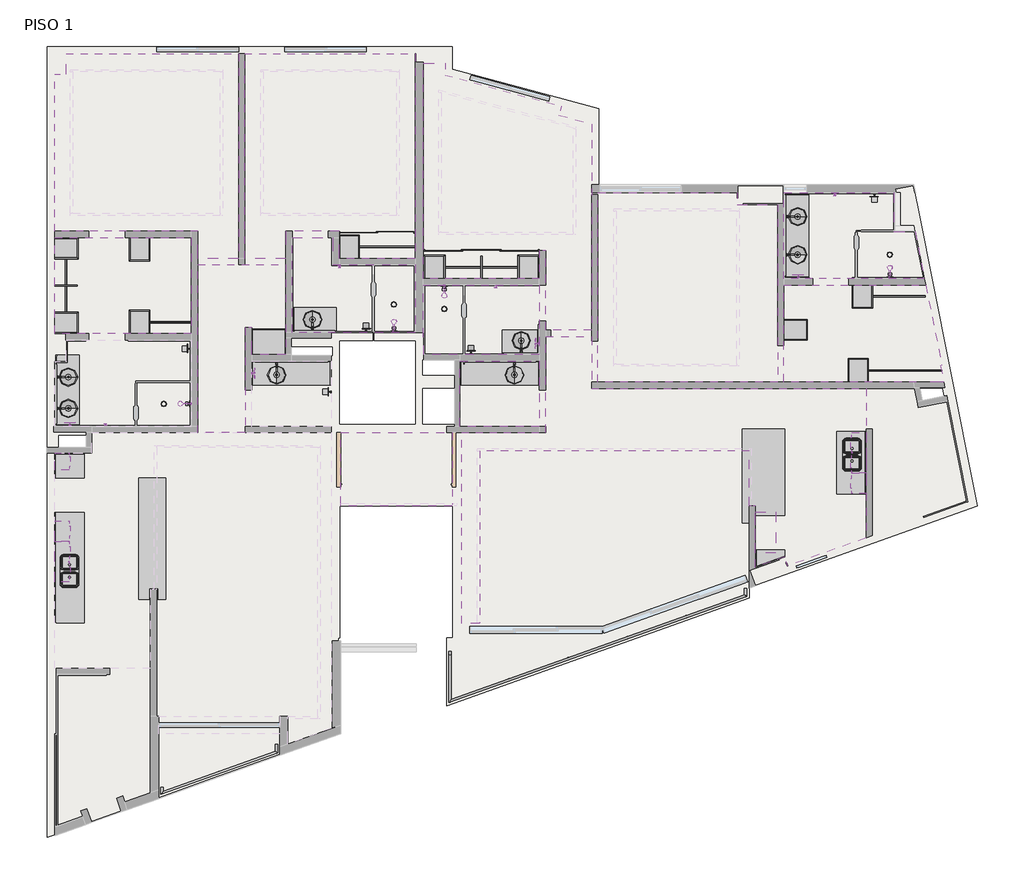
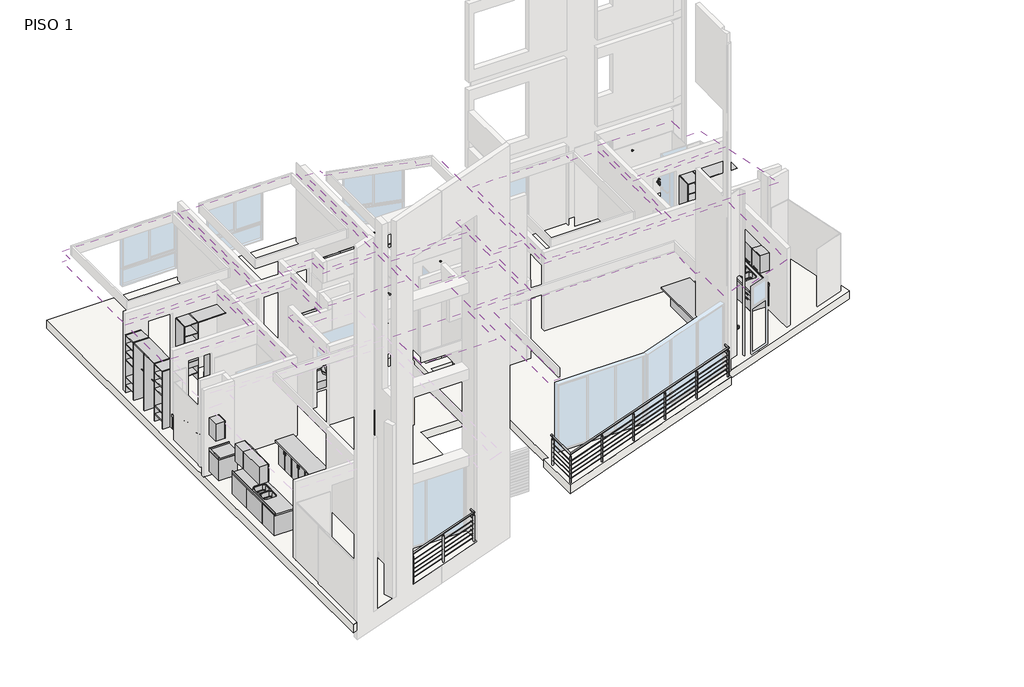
# One storey, part 4 of 4: 43 flow terminals, 37 furniture elements, 13 coverings, 2 railings, 1 proxy, 1 slab.
"""IFC4 building model written with IfcOpenShell, lengths in millimetres."""

from ifc_helpers import new_model, si_unit, frame, origin, place, context, project, spatial, polyline, outline, extrude, faceted_brep, transform, mapped, element, save
from components import specialty_equipment_e95493f8, flow_terminal_a2814962, flow_terminal_5cc0e8a1, flow_terminal_a7820e30, flow_terminal_68213279, flow_terminal_5f1bfaf6, flow_terminal_6c50e432, flow_terminal_979eccb3, flow_terminal_b4af5928, flow_terminal_bcb3a9d6, flow_terminal_02720d88, flow_terminal_974a7598, flow_terminal_63621eee, flow_terminal_70208929, flow_terminal_dbe0ad42, furniture_7ccd6d22, furniture_a8ddcfd3, furniture_af3adfe5, furniture_695d730f, furniture_6c499260, furniture_030b6b42, furniture_772ddd76, furniture_c1e19565, furniture_370_x_600_x_320_mm_8a8752ee, furniture_3900_mm_204c5ad0, furniture_450_x_600_x_320_mm_b980701e, furniture_450_x_600_x_320_mm_602578f4, furniture_550_mm_c334357f, furniture_620_mm_497b6e52, furniture_620_mm_84e951ed, furniture_680_mm_c6045463, furniture_7700_mm_prof_40_e6cee792, furniture_820_mm_546e8a10, furniture_900_mm_f7b05b38, furniture_900_x_600_x_320_mm_ed7ff752, furniture_900_x_600_x_320_mm_dd102760, cl05_4e4fac43, cl2_closet_fc385fcd, cl3_closet_a3c0aced, cl4_a_closet_81bb138c, cl4b_closet_0a5770e6, cl4c_closet_576a11e8, cl6a_closet_3e36db71, cl6b_closet_5e1df598, cl6c_closet_d8154fa9, cubierta4_cubierta_1cff2780, cubierta5_cubierta_24cb3831, railing_ef50bcf6, railing_b0b55876

model = new_model("IFC4")

# Units and contexts
model_context = context("Model", 3, world=origin())
ifc_project = project(units=[si_unit("LENGTHUNIT", "METRE", prefix="MILLI")], contexts=[model_context])

# Site, building, storey
site = spatial("IfcSite", under=ifc_project)
building = spatial("IfcBuilding", under=site)
storey = spatial("IfcBuildingStorey", under=building, Name="PISO 1", Elevation=3000.0)

# Proxy
placement = place(None, origin())
specialty_equipment_shape = specialty_equipment_e95493f8(model_context)
element("IfcBuildingElementProxy", 1, Name="Campana rectangular - muro : Campana rectangular - muro", ObjectType="Campana rectangular - muro : Campana rectangular - muro", at=placement, inside=storey, context=model_context, shape_type="MappedRepresentation", body=[
    mapped(specialty_equipment_shape, transform((49717.8559119, 27525.7129416, 3250.0), x_axis=(0.0, 1.0, 0.0), y_axis=(-1.0, 0.0, 0.0), z_axis=(0.0, 0.0, 1.0))),
])

# Coverings
element("IfcCovering", 2, ObjectType="Plafond Tablaroca", at=placement, inside=storey, context=model_context, shape_type="SweptSolid", body=[
    extrude(outline(polyline([(34143.8589874, 34168.9785701), (34143.8589874, 37625.4026232), (34398.8589874, 37625.4026232), (34398.8589874, 38080.4026232), (38194.5300226, 38080.4026232), (38194.5300226, 33568.9784839), (37294.5300226, 33568.9784839), (37294.5300226, 34168.9785701), (34143.8589874, 34168.9785701)]), holes=[polyline([(34543.8589874, 34568.9785701), (37794.5300226, 34568.9785701), (37794.5300226, 37680.4026232), (34543.8589874, 37680.4026232), (34543.8589874, 34568.9785701)])]), frame((0.0, 0.0, 5350.0), z_axis=(0.0, 0.0, 1.0), x_axis=(1.0, 0.0, 0.0)), (0.0, 0.0, 1.0), 52.7),
])
element("IfcCovering", 3, ObjectType="Plafond Tablaroca", at=placement, inside=storey, context=model_context, shape_type="SweptSolid", body=[
    extrude(outline(polyline([(38334.5300226, 38080.4026232), (42084.5059119, 38080.4026232), (42084.5059119, 33568.9784839), (40409.5059119, 33568.9784839), (40409.5059119, 34168.9785701), (39234.5300226, 34168.9785701), (39234.5300226, 33568.9784839), (38334.5300226, 33568.9784839), (38334.5300226, 38080.4026232)]), holes=[polyline([(38734.5300226, 37680.4026232), (38734.5300226, 34568.9785701), (41684.5059119, 34568.9785701), (41684.5059119, 37680.4026232), (38734.5300226, 37680.4026232)])]), frame((0.0, 0.0, 5350.0), z_axis=(0.0, 0.0, 1.0), x_axis=(1.0, 0.0, 0.0)), (0.0, 0.0, 1.0), 52.7),
])
element("IfcCovering", 4, ObjectType="Plafond Tablaroca", at=placement, inside=storey, context=model_context, shape_type="SweptSolid", body=[
    extrude(outline(polyline([(45253.4028147, 36725.1514674), (45974.5059119, 36531.2471191), (45974.5059119, 35104.0104642), (45974.5059119, 31984.0100923), (44964.5251366, 31984.0100923), (44964.5251366, 33744.0113905), (44824.5251366, 33744.0113905), (44824.5251366, 33124.0113856), (42264.5059119, 33124.0113856), (42264.5059119, 37875.4026232), (42744.5059119, 37875.4026232), (42744.5059119, 37612.0750171), (45306.6362479, 36923.1191455), (45253.4028147, 36725.1514674)]), holes=[polyline([(42664.5059119, 37219.3779563), (42664.5059119, 34144.0113905), (45574.5059119, 34144.0113905), (45574.5059119, 36436.8800645), (42664.5059119, 37219.3779563)])]), frame((0.0, 0.0, 5350.0), z_axis=(0.0, 0.0, 1.0), x_axis=(1.0, 0.0, 0.0)), (0.0, 0.0, 1.0), 52.7),
])
element("IfcCovering", 5, ObjectType="Plafond Tablaroca", at=placement, inside=storey, context=model_context, shape_type="SweptSolid", body=[
    extrude(outline(polyline([(42084.5059119, 31933.9733508), (40329.5059119, 31933.9733508), (39374.5300226, 31933.9733508), (39374.5300226, 34028.9785701), (40269.5059119, 34028.9785701), (40269.5059119, 33428.9784839), (42084.5059119, 33428.9784839), (42084.5059119, 31933.9733508)])), frame((0.0, 0.0, 5350.0), z_axis=(0.0, 0.0, 1.0), x_axis=(1.0, 0.0, 0.0)), (0.0, 0.0, 1.0), 52.7),
])
element("IfcCovering", 6, ObjectType="Plafond Tablaroca", at=placement, inside=storey, context=model_context, shape_type="SweptSolid", body=[
    extrude(outline(polyline([(37154.5300226, 31908.9733508), (34143.8589874, 31908.9733508), (34143.8589874, 34028.9785701), (37154.5300226, 34028.9785701), (37154.5300226, 31908.9733508)])), frame((0.0, 0.0, 5350.0), z_axis=(0.0, 0.0, 1.0), x_axis=(1.0, 0.0, 0.0)), (0.0, 0.0, 1.0), 52.7),
])
element("IfcCovering", 7, ObjectType="Plafond Tablaroca", at=placement, inside=storey, context=model_context, shape_type="SweptSolid", body=[
    extrude(outline(polyline([(39234.5300226, 33428.9784839), (39234.5300226, 31444.0104769), (38484.5059119, 31444.0104769), (38484.5059119, 32044.0104769), (38344.5059119, 32044.0104769), (38344.5059119, 29724.010184), (37294.5300226, 29724.010184), (37294.5300226, 33428.9784839), (39234.5300226, 33428.9784839)])), frame((0.0, 0.0, 5350.0), z_axis=(0.0, 0.0, 1.0), x_axis=(1.0, 0.0, 0.0)), (0.0, 0.0, 1.0), 52.7),
])
element("IfcCovering", 8, ObjectType="Plafond Tablaroca", at=placement, inside=storey, context=model_context, shape_type="SweptSolid", body=[
    extrude(outline(polyline([(43014.5059119, 31444.0104755), (42279.5059119, 31444.0104755), (42279.5059119, 31838.9733508), (42264.5059119, 31838.9733508), (42264.5059119, 32984.0113856), (44824.5251366, 32984.0113856), (44824.5251366, 31444.0104755), (43014.5059119, 31444.0104755)])), frame((0.0, 0.0, 5350.0), z_axis=(0.0, 0.0, 1.0), x_axis=(1.0, 0.0, 0.0)), (0.0, 0.0, 1.0), 52.7),
])
element("IfcCovering", 9, ObjectType="Plafond Tablaroca", at=placement, inside=storey, context=model_context, shape_type="SweptSolid", body=[
    extrude(outline(polyline([(44824.5251366, 31304.0104755), (44824.5251366, 29864.010184), (43074.5059119, 29864.010184), (43074.5059119, 31304.0104755), (44824.5251366, 31304.0104755)])), frame((0.0, 0.0, 5350.0), z_axis=(0.0, 0.0, 1.0), x_axis=(1.0, 0.0, 0.0)), (0.0, 0.0, 1.0), 52.7),
])
element("IfcCovering", 10, ObjectType="Plafond Tablaroca", at=placement, inside=storey, context=model_context, shape_type="SweptSolid", body=[
    extrude(outline(polyline([(46114.5059119, 30844.0100923), (46114.5059119, 35014.0104642), (49179.4822189, 35014.0104642), (49179.4822189, 34759.0104642), (50074.4822189, 34759.0104642), (50074.4822189, 30844.0100923), (46114.5059119, 30844.0100923)]), holes=[polyline([(46514.5059119, 34614.0104642), (46514.5059119, 31244.0100923), (49174.4822189, 31244.0100923), (49174.4822189, 34614.0104642), (46514.5059119, 34614.0104642)])]), frame((0.0, 0.0, 5350.0), z_axis=(0.0, 0.0, 1.0), x_axis=(1.0, 0.0, 0.0)), (0.0, 0.0, 1.0), 52.7),
])
element("IfcCovering", 11, ObjectType="Plafond Tablaroca", at=placement, inside=storey, context=model_context, shape_type="SweptSolid", body=[
    extrude(outline(polyline([(52636.6303003, 35014.0104642), (52636.6303003, 34154.0104642), (53104.1193844, 34154.0104642), (53310.4167001, 33124.0113812), (50214.4822189, 33124.0113812), (50214.4822189, 35014.0104642), (52636.6303003, 35014.0104642)])), frame((0.0, 0.0, 5350.0), z_axis=(0.0, 0.0, 1.0), x_axis=(1.0, 0.0, 0.0)), (0.0, 0.0, 1.0), 52.7),
])
element("IfcCovering", 12, ObjectType="Plafond Tablaroca", at=placement, inside=storey, context=model_context, shape_type="SweptSolid", body=[
    extrude(outline(polyline([(50214.4822189, 32984.0113812), (53338.4571369, 32984.0113812), (53693.0464332, 31213.6216464), (53663.630648, 31207.7299931), (53736.479683, 30844.0100923), (53134.7162741, 30844.0100923), (50214.4822189, 30844.0100923), (50214.4822189, 32984.0113812)])), frame((0.0, 0.0, 5350.0), z_axis=(0.0, 0.0, 1.0), x_axis=(1.0, 0.0, 0.0)), (0.0, 0.0, 1.0), 52.7),
])
element("IfcCovering", 13, ObjectType="Plafond Tablaroca", at=placement, inside=storey, context=model_context, shape_type="Brep", body=[
    faceted_brep([(44964.5251366, 31844.0100923, 5402.7), (44964.5251366, 29724.010184, 5402.7), (43109.5059119, 29724.010184, 5402.7), (43109.5059119, 25525.2541962, 5402.7), (43509.5059119, 25525.2541962, 5402.7), (43509.5059119, 25545.2541962, 5402.7), (43509.5059119, 29324.010184, 5402.7), (49444.5059119, 29324.010184, 5402.7), (49444.5059119, 28111.0432167, 5402.7), (49497.2059119, 28111.0432167, 5402.7), (49584.5059119, 28111.0432167, 5402.7), (49584.5059119, 26757.929668, 5402.7), (50230.4085675, 26988.0993789, 5402.7), (50300.9007209, 26790.2841715, 5402.7), (52024.4822189, 27404.4885747, 5402.7), (52024.4822189, 30704.0100923, 5402.7), (45974.5059119, 30704.0100923, 5402.7), (45974.5059119, 31844.0100923, 5402.7), (44964.5251366, 31844.0100923, 5350.0), (45974.5059119, 31844.0100923, 5350.0), (45974.5059119, 30704.0100923, 5350.0), (52024.4822189, 30704.0100923, 5350.0), (52024.4822189, 27404.4885747, 5350.0), (50300.9007209, 26790.2841715, 5350.0), (50230.4085675, 26988.0993789, 5350.0), (49584.5059119, 26757.929668, 5350.0), (49584.5059119, 28111.0432167, 5350.0), (49444.5059119, 28111.0432167, 5350.0), (49444.5059119, 29324.010184, 5350.0), (43509.5059119, 29324.010184, 5350.0), (43509.5059119, 25525.2541962, 5350.0), (43109.5059119, 25525.2541962, 5350.0), (43109.5059119, 29724.010184, 5350.0), (44964.5251366, 29724.010184, 5350.0)], [[[0, 1, 2, 3, 4, 5, 6, 7, 8, 9, 10, 11, 12, 13, 14, 15, 16, 17]], [[18, 19, 20, 21, 22, 23, 24, 25, 26, 27, 28, 29, 30, 31, 32, 33]], [[1, 0, 18, 33]], [[7, 6, 29, 28]], [[8, 7, 28, 27]], [[10, 9, 8, 27, 26]], [[11, 10, 26, 25]], [[12, 11, 25, 24]], [[13, 12, 24, 23]], [[14, 13, 23, 22]], [[15, 14, 22, 21]], [[16, 15, 21, 20]], [[17, 16, 20, 19]], [[0, 17, 19, 18]], [[2, 1, 33, 32]], [[3, 2, 32, 31]], [[4, 3, 31, 30]], [[6, 5, 4, 30, 29]]]),
])
element("IfcCovering", 14, ObjectType="Plafond Tablaroca", at=placement, inside=storey, context=model_context, shape_type="Brep", body=[
    faceted_brep([(40444.5059119, 28111.0432167, 5402.7), (42899.5059119, 28111.0432167, 5402.7), (42899.5059119, 28163.7432167, 5402.7), (42899.5059119, 29724.010184, 5402.7), (40444.5059119, 29724.010184, 5402.7), (40444.5059119, 28163.7432167, 5402.7), (40444.5059119, 28111.0432167, 5350.0), (40444.5059119, 29724.010184, 5350.0), (42899.5059119, 29724.010184, 5350.0), (42899.5059119, 28111.0432167, 5350.0), (42899.5059119, 28111.0432167, 5400.0)], [[[0, 1, 2, 3, 4, 5]], [[6, 7, 8, 9]], [[1, 0, 6, 9, 10]], [[3, 2, 1, 10, 9, 8]], [[4, 3, 8, 7]], [[0, 5, 4, 7, 6]]]),
])

# Flow terminals
flow_terminal_shape = flow_terminal_a2814962(model_context)
element("IfcFlowTerminal", 15, ObjectType="Ovalin sobreponer maia - vitromex : Accesorios_baño", at=placement, inside=storey, context=model_context, shape_type="MappedRepresentation", body=[
    mapped(flow_terminal_shape, transform((34443.8589874, 30260.983502, 3000.0), x_axis=(1.0, 0.0, 0.0), y_axis=(0.0, 1.0, 0.0), z_axis=(0.0, 0.0, 1.0))),
])
element("IfcFlowTerminal", 16, ObjectType="Ovalin sobreponer maia - vitromex : Accesorios_baño", at=placement, inside=storey, context=model_context, shape_type="MappedRepresentation", body=[
    mapped(flow_terminal_shape, transform((39824.5300226, 32218.9733508, 3000.0), x_axis=(0.0, 1.0, 0.0), y_axis=(-1.0, 0.0, 0.0), z_axis=(0.0, 0.0, 1.0))),
])
element("IfcFlowTerminal", 17, ObjectType="Ovalin sobreponer maia - vitromex : Accesorios_baño", at=placement, inside=storey, context=model_context, shape_type="MappedRepresentation", body=[
    mapped(flow_terminal_shape, transform((44424.5034689, 31754.0104755, 3000.0), x_axis=(0.0, 1.0, 0.0), y_axis=(-1.0, 0.0, 0.0), z_axis=(0.0, 0.0, 1.0))),
])
element("IfcFlowTerminal", 18, ObjectType="Ovalin sobreponer maia - vitromex : Accesorios_baño", at=placement, inside=storey, context=model_context, shape_type="MappedRepresentation", body=[
    mapped(flow_terminal_shape, transform((44274.5251366, 31001.9733508, 3000.0), x_axis=(0.0, -1.0, 0.0), y_axis=(1.0, 0.0, 0.0), z_axis=(0.0, 0.0, 1.0))),
])
element("IfcFlowTerminal", 19, ObjectType="Ovalin sobreponer maia - vitromex : Accesorios_baño", at=placement, inside=storey, context=model_context, shape_type="MappedRepresentation", body=[
    mapped(flow_terminal_shape, transform((50514.4822189, 33648.5026573, 3000.0), x_axis=(1.0, 0.0, 0.0), y_axis=(0.0, 1.0, 0.0), z_axis=(0.0, 0.0, 1.0))),
])
flow_terminal_2_shape = flow_terminal_5cc0e8a1(model_context)
element("IfcFlowTerminal", 20, ObjectType="monomando lavabo - tubo : monomando lavabo - tubo", at=placement, inside=storey, context=model_context, shape_type="MappedRepresentation", body=[
    mapped(flow_terminal_2_shape, transform((34203.8589874, 30260.983502, 3000.0), x_axis=(0.0, 1.0, 0.0), y_axis=(-1.0, 0.0, 0.0), z_axis=(0.0, 0.0, 1.0))),
])
element("IfcFlowTerminal", 21, ObjectType="monomando lavabo - tubo : monomando lavabo - tubo", at=placement, inside=storey, context=model_context, shape_type="MappedRepresentation", body=[
    mapped(flow_terminal_2_shape, transform((39824.5300226, 31978.9733508, 3000.0), x_axis=(-1.0, 0.0, 0.0), y_axis=(0.0, -1.0, 0.0), z_axis=(0.0, 0.0, 1.0))),
])
element("IfcFlowTerminal", 22, ObjectType="monomando lavabo - tubo : monomando lavabo - tubo", at=placement, inside=storey, context=model_context, shape_type="MappedRepresentation", body=[
    mapped(flow_terminal_2_shape, transform((44424.5034689, 31514.0104755, 3000.0), x_axis=(-1.0, 0.0, 0.0), y_axis=(0.0, -1.0, 0.0), z_axis=(0.0, 0.0, 1.0))),
])
element("IfcFlowTerminal", 23, ObjectType="monomando lavabo - tubo : monomando lavabo - tubo", at=placement, inside=storey, context=model_context, shape_type="MappedRepresentation", body=[
    mapped(flow_terminal_2_shape, transform((44274.5251366, 31241.9733508, 3000.0), x_axis=(1.0, 0.0, 0.0), y_axis=(0.0, 1.0, 0.0), z_axis=(0.0, 0.0, 1.0))),
])
element("IfcFlowTerminal", 24, ObjectType="monomando lavabo - tubo : monomando lavabo - tubo", at=placement, inside=storey, context=model_context, shape_type="MappedRepresentation", body=[
    mapped(flow_terminal_2_shape, transform((50274.4822189, 33648.5026573, 3000.0), x_axis=(0.0, 1.0, 0.0), y_axis=(-1.0, 0.0, 0.0), z_axis=(0.0, 0.0, 1.0))),
])
flow_terminal_3_shape = flow_terminal_a7820e30(model_context)
element("IfcFlowTerminal", 25, ObjectType="monomando lavabo - tubo : monomando lavabo - tubo", at=placement, inside=storey, context=model_context, shape_type="MappedRepresentation", body=[
    mapped(flow_terminal_3_shape, transform((34203.8589874, 30952.0000328, 3000.0), x_axis=(0.0, -1.0, 0.0), y_axis=(1.0, 0.0, 0.0), z_axis=(0.0, 0.0, 1.0))),
])
element("IfcFlowTerminal", 26, ObjectType="monomando lavabo - tubo : monomando lavabo - tubo", at=placement, inside=storey, context=model_context, shape_type="MappedRepresentation", body=[
    mapped(flow_terminal_3_shape, transform((39034.5059119, 31241.9733508, 3000.0), x_axis=(-1.0, 0.0, 0.0), y_axis=(0.0, -1.0, 0.0), z_axis=(0.0, 0.0, 1.0))),
])
element("IfcFlowTerminal", 27, ObjectType="monomando lavabo - tubo : monomando lavabo - tubo", at=placement, inside=storey, context=model_context, shape_type="MappedRepresentation", body=[
    mapped(flow_terminal_3_shape, transform((50274.4822189, 34489.5191881, 3000.0), x_axis=(0.0, -1.0, 0.0), y_axis=(1.0, 0.0, 0.0), z_axis=(0.0, 0.0, 1.0))),
])
flow_terminal_4_shape = flow_terminal_68213279(model_context)
element("IfcFlowTerminal", 28, ObjectType="Ovalin sobreponer maia - vitromex : Accesorios_baño", at=placement, inside=storey, context=model_context, shape_type="MappedRepresentation", body=[
    mapped(flow_terminal_4_shape, transform((34443.8589874, 30952.0000328, 3000.0), x_axis=(1.0, 0.0, 0.0), y_axis=(0.0, 1.0, 0.0), z_axis=(0.0, 0.0, 1.0))),
])
element("IfcFlowTerminal", 29, ObjectType="Ovalin sobreponer maia - vitromex : Accesorios_baño", at=placement, inside=storey, context=model_context, shape_type="MappedRepresentation", body=[
    mapped(flow_terminal_4_shape, transform((39034.5059119, 31001.9733508, 3000.0), x_axis=(0.0, -1.0, 0.0), y_axis=(1.0, 0.0, 0.0), z_axis=(0.0, 0.0, 1.0))),
])
element("IfcFlowTerminal", 30, ObjectType="Ovalin sobreponer maia - vitromex : Accesorios_baño", at=placement, inside=storey, context=model_context, shape_type="MappedRepresentation", body=[
    mapped(flow_terminal_4_shape, transform((50514.4822189, 34489.5191881, 3000.0), x_axis=(1.0, 0.0, 0.0), y_axis=(0.0, 1.0, 0.0), z_axis=(0.0, 0.0, 1.0))),
])
flow_terminal_5_shape = flow_terminal_5f1bfaf6(model_context)
element("IfcFlowTerminal", 31, ObjectType="Regadera : Accesorios_baño", at=placement, inside=storey, context=model_context, shape_type="MappedRepresentation", body=[
    mapped(flow_terminal_5_shape, transform((37224.5300226, 30239.010184, 3151.7905899), x_axis=(0.0, 1.0, 0.0), y_axis=(-1.0, 0.0, 0.0), z_axis=(0.0, 0.0, 1.0))),
])
flow_terminal_6_shape = flow_terminal_6c50e432(model_context)
element("IfcFlowTerminal", 32, ObjectType="Portarrollo Dica 1017 : Portarrollos Dica 1017", at=placement, inside=storey, context=model_context, shape_type="MappedRepresentation", body=[
    mapped(flow_terminal_6_shape, transform((37144.5300226, 31453.9733508, 3502.2787162), x_axis=(0.0, 1.0, 0.0), y_axis=(-1.0, 0.0, 0.0), z_axis=(0.0, 0.0, 1.0))),
])
element("IfcFlowTerminal", 33, ObjectType="Portarrollo Dica 1017 : Portarrollos Dica 1017", at=placement, inside=storey, context=model_context, shape_type="MappedRepresentation", body=[
    mapped(flow_terminal_6_shape, transform((40879.5059119, 31943.9733508, 3502.2787162), x_axis=(1.0, 0.0, 0.0), y_axis=(0.0, 1.0, 0.0), z_axis=(0.0, 0.0, 1.0))),
])
element("IfcFlowTerminal", 34, ObjectType="Portarrollo Dica 1017 : Portarrollos Dica 1017", at=placement, inside=storey, context=model_context, shape_type="MappedRepresentation", body=[
    mapped(flow_terminal_6_shape, transform((52331.6303003, 35004.0104642, 3502.2787162), x_axis=(-1.0, 0.0, 0.0), y_axis=(0.0, -1.0, 0.0), z_axis=(0.0, 0.0, 1.0))),
])
element("IfcFlowTerminal", 35, ObjectType="Portarrollo Dica 1017 : Portarrollos Dica 1017", at=placement, inside=storey, context=model_context, shape_type="MappedRepresentation", body=[
    mapped(flow_terminal_6_shape, transform((43189.5060721, 31454.0104754, 3502.2787162), x_axis=(1.0, 0.0, 0.0), y_axis=(0.0, 1.0, 0.0), z_axis=(0.0, 0.0, 1.0))),
])
flow_terminal_7_shape = flow_terminal_979eccb3(model_context)
element("IfcFlowTerminal", 36, ObjectType="Monomando Dica 4473.9 : Accesorios_baño", at=placement, inside=storey, context=model_context, shape_type="MappedRepresentation", body=[
    mapped(flow_terminal_7_shape, transform((37144.5300226, 30236.4917674, 3000.0), x_axis=(0.0, 1.0, 0.0), y_axis=(-1.0, 0.0, 0.0), z_axis=(0.0, 0.0, 1.0))),
])
element("IfcFlowTerminal", 37, ObjectType="Monomando Dica 4473.9 : Accesorios_baño", at=placement, inside=storey, context=model_context, shape_type="MappedRepresentation", body=[
    mapped(flow_terminal_7_shape, transform((41494.5059119, 31943.9733508, 3000.0), x_axis=(1.0, 0.0, 0.0), y_axis=(0.0, 1.0, 0.0), z_axis=(0.0, 0.0, 1.0))),
])
element("IfcFlowTerminal", 38, ObjectType="Monomando Dica 4473.9 : Accesorios_baño", at=placement, inside=storey, context=model_context, shape_type="MappedRepresentation", body=[
    mapped(flow_terminal_7_shape, transform((52424.6388453, 33134.0113812, 3000.0), x_axis=(1.0, 0.0, 0.0), y_axis=(0.0, 1.0, 0.0), z_axis=(0.0, 0.0, 1.0))),
])
element("IfcFlowTerminal", 39, ObjectType="Monomando Dica 4473.9 : Accesorios_baño", at=placement, inside=storey, context=model_context, shape_type="MappedRepresentation", body=[
    mapped(flow_terminal_7_shape, transform((42854.255992, 32973.9839575, 3000.0), x_axis=(-1.0, 0.0, 0.0), y_axis=(0.0, -1.0, 0.0), z_axis=(0.0, 0.0, 1.0))),
])
flow_terminal_8_shape = flow_terminal_b4af5928(model_context)
element("IfcFlowTerminal", 40, ObjectType="Coladera : COLADERA PARA REGADERA", at=placement, inside=storey, context=model_context, shape_type="MappedRepresentation", body=[
    mapped(flow_terminal_8_shape, transform((36547.4660471, 30361.4917674, 3000.0), x_axis=(1.0, 0.0, 0.0), y_axis=(0.0, 1.0, 0.0), z_axis=(0.0, 0.0, 1.0))),
])
element("IfcFlowTerminal", 41, ObjectType="Coladera : COLADERA PARA REGADERA", at=placement, inside=storey, context=model_context, shape_type="MappedRepresentation", body=[
    mapped(flow_terminal_8_shape, transform((41617.2559119, 32553.9733508, 3000.0), x_axis=(1.0, 0.0, 0.0), y_axis=(0.0, 1.0, 0.0), z_axis=(0.0, 0.0, 1.0))),
])
element("IfcFlowTerminal", 42, ObjectType="Coladera : COLADERA PARA REGADERA", at=placement, inside=storey, context=model_context, shape_type="MappedRepresentation", body=[
    mapped(flow_terminal_8_shape, transform((52546.6303003, 33649.0109227, 3000.0), x_axis=(1.0, 0.0, 0.0), y_axis=(0.0, 1.0, 0.0), z_axis=(0.0, 0.0, 1.0))),
])
element("IfcFlowTerminal", 43, ObjectType="Coladera : COLADERA PARA REGADERA", at=placement, inside=storey, context=model_context, shape_type="MappedRepresentation", body=[
    mapped(flow_terminal_8_shape, transform((42729.255992, 32454.0113856, 3000.0), x_axis=(1.0, 0.0, 0.0), y_axis=(0.0, 1.0, 0.0), z_axis=(0.0, 0.0, 1.0))),
])
flow_terminal_9_shape = flow_terminal_bcb3a9d6(model_context)
element("IfcFlowTerminal", 44, ObjectType="Toallero gancho Dica 1006 : Toallero gancho Dica 1006", at=placement, inside=storey, context=model_context, shape_type="MappedRepresentation", body=[
    mapped(flow_terminal_9_shape, transform((35138.8589874, 29874.010184, 4795.0), x_axis=(1.0, 0.0, 0.0), y_axis=(0.0, 1.0, 0.0), z_axis=(0.0, 0.0, 1.0))),
])
element("IfcFlowTerminal", 45, ObjectType="Toallero gancho Dica 1006 : Toallero gancho Dica 1006", at=placement, inside=storey, context=model_context, shape_type="MappedRepresentation", body=[
    mapped(flow_terminal_9_shape, transform((40544.5059119, 33418.9784839, 4425.0), x_axis=(-1.0, 0.0, 0.0), y_axis=(0.0, -1.0, 0.0), z_axis=(0.0, 0.0, 1.0))),
])
element("IfcFlowTerminal", 46, ObjectType="Toallero gancho Dica 1006 : Toallero gancho Dica 1006", at=placement, inside=storey, context=model_context, shape_type="MappedRepresentation", body=[
    mapped(flow_terminal_9_shape, transform((51459.4822189, 35004.0104642, 4795.0), x_axis=(-1.0, 0.0, 0.0), y_axis=(0.0, -1.0, 0.0), z_axis=(0.0, 0.0, 1.0))),
])
element("IfcFlowTerminal", 47, ObjectType="Toallero gancho Dica 1006 : Toallero gancho Dica 1006", at=placement, inside=storey, context=model_context, shape_type="MappedRepresentation", body=[
    mapped(flow_terminal_9_shape, transform((43989.5060721, 32973.9839575, 4795.0), x_axis=(-1.0, 0.0, 0.0), y_axis=(0.0, -1.0, 0.0), z_axis=(0.0, 0.0, 1.0))),
])
flow_terminal_10_shape = flow_terminal_02720d88(model_context)
element("IfcFlowTerminal", 48, ObjectType="Toallero Dica 1009 : Toallero Dica manos 1009", at=placement, inside=storey, context=model_context, shape_type="MappedRepresentation", body=[
    mapped(flow_terminal_10_shape, transform((34348.8589874, 29874.010184, 4548.657459), x_axis=(1.0, 0.0, 0.0), y_axis=(0.0, 1.0, 0.0), z_axis=(0.0, 0.0, 1.0))),
])
element("IfcFlowTerminal", 49, ObjectType="Toallero Dica 1009 : Toallero Dica manos 1009", at=placement, inside=storey, context=model_context, shape_type="MappedRepresentation", body=[
    mapped(flow_terminal_10_shape, transform((50404.4822189, 33134.0113812, 4548.657459), x_axis=(1.0, 0.0, 0.0), y_axis=(0.0, 1.0, 0.0), z_axis=(0.0, 0.0, 1.0))),
])
element("IfcFlowTerminal", 50, ObjectType="Toallero Dica 1009 : Toallero Dica manos 1009", at=placement, inside=storey, context=model_context, shape_type="MappedRepresentation", body=[
    mapped(flow_terminal_10_shape, transform((44814.5251366, 31569.0104754, 4548.657459), x_axis=(0.0, 1.0, 0.0), y_axis=(-1.0, 0.0, 0.0), z_axis=(0.0, 0.0, 1.0))),
])
flow_terminal_11_shape = flow_terminal_974a7598(model_context)
element("IfcFlowTerminal", 51, ObjectType="Toallero Dica 1009 : Toallero Dica manos 1009", at=placement, inside=storey, context=model_context, shape_type="MappedRepresentation", body=[
    mapped(flow_terminal_11_shape, transform((38414.5059119, 31159.0104769, 4548.657459), x_axis=(0.0, -1.0, 0.0), y_axis=(1.0, 0.0, 0.0), z_axis=(0.0, 0.0, 1.0))),
])
element("IfcFlowTerminal", 52, ObjectType="Portarrollo Dica 1017 : Portarrollos Dica 1017", at=placement, inside=storey, context=model_context, shape_type="MappedRepresentation", body=[
    mapped(flow_terminal_6_shape, transform((40244.5059119, 30499.0104769, 3502.2787162), x_axis=(0.0, 1.0, 0.0), y_axis=(-1.0, 0.0, 0.0), z_axis=(0.0, 0.0, 1.0))),
])
flow_terminal_12_shape = flow_terminal_63621eee(model_context)
element("IfcFlowTerminal", 53, ObjectType="Regadera : Accesorios_baño", at=placement, inside=storey, context=model_context, shape_type="MappedRepresentation", body=[
    mapped(flow_terminal_12_shape, transform((41744.5059119, 31923.9733508, 3151.7905899), x_axis=(-1.0, 0.0, 0.0), y_axis=(0.0, -1.0, 0.0), z_axis=(0.0, 0.0, 1.0))),
])
flow_terminal_13_shape = flow_terminal_70208929(model_context)
element("IfcFlowTerminal", 54, ObjectType="Regadera : Accesorios_baño", at=placement, inside=storey, context=model_context, shape_type="MappedRepresentation", body=[
    mapped(flow_terminal_13_shape, transform((52674.6388453, 33054.0113812, 3151.7905899), x_axis=(-1.0, 0.0, 0.0), y_axis=(0.0, -1.0, 0.0), z_axis=(0.0, 0.0, 1.0))),
])
element("IfcFlowTerminal", 55, ObjectType="Regadera : Accesorios_baño", at=placement, inside=storey, context=model_context, shape_type="MappedRepresentation", body=[
    mapped(flow_terminal_13_shape, transform((42604.255992, 33054.0113856, 3151.7905899), x_axis=(1.0, 0.0, 0.0), y_axis=(0.0, 1.0, 0.0), z_axis=(0.0, 0.0, 1.0))),
])
flow_terminal_14_shape = flow_terminal_dbe0ad42(model_context)
element("IfcFlowTerminal", 56, ObjectType="Tarja Teka subm BE 780 : TARJA PARA COCINA", at=placement, inside=storey, context=model_context, shape_type="MappedRepresentation", body=[
    mapped(flow_terminal_14_shape, transform((51691.6368177, 29295.5424593, 2962.9), x_axis=(0.0, -1.0, 0.0), y_axis=(1.0, 0.0, 0.0), z_axis=(0.0, 0.0, 1.0))),
])
element("IfcFlowTerminal", 57, ObjectType="Tarja Teka subm BE 780 : TARJA PARA COCINA", at=placement, inside=storey, context=model_context, shape_type="MappedRepresentation", body=[
    mapped(flow_terminal_14_shape, transform((34489.2043886, 26620.3209435, 2962.9), x_axis=(0.0, 1.0000000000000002, 0.0), y_axis=(-1.0000000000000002, 0.0, 0.0), z_axis=(0.0, 0.0, 1.0))),
])

# Furniture
furniture_shape = furniture_7ccd6d22(model_context)
element("IfcFurniture", 58, ObjectType="ajuste mueble - esquinas7 : ajuste mueble - esquinas", at=placement, inside=storey, context=model_context, shape_type="MappedRepresentation", body=[
    mapped(furniture_shape, transform((81275.8064612, -6969.2760266, 0.0), x_axis=(0.0, 1.0, 0.0), y_axis=(-1.0, 0.0, 0.0), z_axis=(0.0, 0.0, 1.0))),
])
furniture_2_shape = furniture_a8ddcfd3(model_context)
element("IfcFurniture", 59, ObjectType="Puerta Closet corre 3 hojas : Puerta corrdiza 3 hojas PCL-02", at=placement, inside=storey, context=model_context, shape_type="MappedRepresentation", body=[
    mapped(furniture_2_shape, transform((43554.5251366, 33644.0113856, 3000.0), x_axis=(1.0, 0.0, 0.0), y_axis=(0.0, 1.0, 0.0), z_axis=(0.0, 0.0, 1.0))),
])
furniture_3_shape = furniture_af3adfe5(model_context)
element("IfcFurniture", 60, ObjectType="Puerta Closet corre 2 hojas : Puerta corrdiza 2 hojas", at=placement, inside=storey, context=model_context, shape_type="MappedRepresentation", body=[
    mapped(furniture_3_shape, transform((41784.5059119, 34048.9785701, 3000.0), x_axis=(1.0, 0.0, 0.0), y_axis=(0.0, 1.0, 0.0), z_axis=(0.0, 0.0, 1.0))),
])
furniture_4_shape = furniture_695d730f(model_context)
element("IfcFurniture", 61, ObjectType="Mueble colgado 1 cajon - lavabo sobreponer : MB4-mueble baño colgado-1 cajon 80 cm", at=placement, inside=storey, context=model_context, shape_type="MappedRepresentation", body=[
    mapped(furniture_4_shape, transform((44279.5251366, 31454.0104754, 3000.0), x_axis=(1.0, 0.0, 0.0), y_axis=(0.0, 1.0, 0.0), z_axis=(0.0, 0.0, 1.0))),
])
furniture_5_shape = furniture_6c499260(model_context)
element("IfcFurniture", 62, ObjectType="Mueble colgado 1 cajon - lavabo sobreponer : MB1-mueble baño colgado-1 cajon - 90cm", at=placement, inside=storey, context=model_context, shape_type="MappedRepresentation", body=[
    mapped(furniture_5_shape, transform((39744.5300226, 31943.9733508, 3000.0), x_axis=(1.0, 0.0, 0.0), y_axis=(0.0, 1.0, 0.0), z_axis=(0.0, 0.0, 1.0))),
])
furniture_6_shape = furniture_030b6b42(model_context)
element("IfcFurniture", 63, ObjectType="Mueble colgado 2 cajones al lado - lavabo sobreponer : MB2-mueble baño colgado-2 cajones al lado 150", at=placement, inside=storey, context=model_context, shape_type="MappedRepresentation", body=[
    mapped(furniture_6_shape, transform((34153.8589874, 30784.010184, 3000.0), x_axis=(0.0, -1.0, 0.0), y_axis=(1.0, 0.0, 0.0), z_axis=(0.0, 0.0, 1.0))),
])
furniture_7_shape = furniture_772ddd76(model_context)
element("IfcFurniture", 64, ObjectType="Mueble colgado 2 cajones al lado - lavabo sobreponer : MB3-mueble baño colgado-2 cajones al lado 185", at=placement, inside=storey, context=model_context, shape_type="MappedRepresentation", body=[
    mapped(furniture_7_shape, transform((50224.4822189, 34194.0104642, 3000.0), x_axis=(0.0, -1.0, 0.0), y_axis=(1.0, 0.0, 0.0), z_axis=(0.0, 0.0, 1.0))),
])
furniture_8_shape = furniture_c1e19565(model_context)
element("IfcFurniture", 65, ObjectType="Mueble con faldon sin cajones - lavabo sobreponer : MB8-mueble baño colgado- 1.75cm", at=placement, inside=storey, context=model_context, shape_type="MappedRepresentation", body=[
    mapped(furniture_8_shape, transform((39484.5059119, 31374.0104769, 3000.0), x_axis=(-1.0, 0.0, 0.0), y_axis=(0.0, -1.0, 0.0), z_axis=(0.0, 0.0, 1.0))),
])
element("IfcFurniture", 66, ObjectType="Mueble con faldon sin cajones - lavabo sobreponer : MB8-mueble baño colgado- 1.75cm", at=placement, inside=storey, context=model_context, shape_type="MappedRepresentation", body=[
    mapped(furniture_8_shape, transform((44074.5251366, 31374.0104755, 3000.0), x_axis=(-1.0, 0.0, 0.0), y_axis=(0.0, -1.0, 0.0), z_axis=(0.0, 0.0, 1.0))),
])
furniture_370_x_600_x_320_mm_shape = furniture_370_x_600_x_320_mm_8a8752ee(model_context)
element("IfcFurniture", 67, ObjectType="Armario superior - Puerta simple : 370 x 600 x 320 mm", at=placement, inside=storey, context=model_context, shape_type="MappedRepresentation", body=[
    mapped(furniture_370_x_600_x_320_mm_shape, transform((34053.8589874, 28914.010184, 3000.0), x_axis=(0.0, 1.0, 0.0), y_axis=(-1.0, 0.0, 0.0), z_axis=(0.0, 0.0, 1.0))),
])
furniture_3900_mm_shape = furniture_3900_mm_204c5ad0(model_context)
element("IfcFurniture", 68, ObjectType="Armario 3 cajones : 3900 mm", at=placement, inside=storey, context=model_context, shape_type="MappedRepresentation", body=[
    mapped(furniture_3900_mm_shape, transform((52024.4822189, 28613.0909236, 3000.0), x_axis=(0.0, -1.0, 0.0), y_axis=(1.0, 0.0, 0.0), z_axis=(0.0, 0.0, 1.0))),
])
furniture_450_x_600_x_320_mm_shape = furniture_450_x_600_x_320_mm_b980701e(model_context)
element("IfcFurniture", 69, ObjectType="Armario superior - Puerta simple : 450 x 600 x 320 mm", at=placement, inside=storey, context=model_context, shape_type="MappedRepresentation", body=[
    mapped(furniture_450_x_600_x_320_mm_shape, transform((52094.4822189, 28434.010184, 3000.0), x_axis=(0.0, 1.0, 0.0), y_axis=(-1.0, 0.0, 0.0), z_axis=(0.0, 0.0, 1.0))),
])
furniture_450_x_600_x_320_mm_2_shape = furniture_450_x_600_x_320_mm_602578f4(model_context)
element("IfcFurniture", 70, ObjectType="Armario superior - Puerta simple : 450 x 600 x 320 mm", at=placement, inside=storey, context=model_context, shape_type="MappedRepresentation", body=[
    mapped(furniture_450_x_600_x_320_mm_2_shape, transform((34053.8589874, 27732.4819737, 3000.0), x_axis=(0.0, -1.0, 0.0), y_axis=(1.0, 0.0, 0.0), z_axis=(0.0, 0.0, 1.0))),
])
furniture_550_mm_shape = furniture_550_mm_c334357f(model_context)
element("IfcFurniture", 71, ObjectType="Armario-Una puerta : 550 mm", at=placement, inside=storey, context=model_context, shape_type="MappedRepresentation", body=[
    mapped(furniture_550_mm_shape, transform((34143.8589874, 29017.7478889, 3000.0), x_axis=(0.0, -1.0, 0.0), y_axis=(1.0, 0.0, 0.0), z_axis=(0.0, 0.0, 1.0))),
])
furniture_620_mm_shape = furniture_620_mm_497b6e52(model_context)
element("IfcFurniture", 72, ObjectType="Armario-Una puerta : 620 mm", at=placement, inside=storey, context=model_context, shape_type="MappedRepresentation", body=[
    mapped(furniture_620_mm_shape, transform((49604.5059119, 28205.2724791, 3000.0), x_axis=(0.0, 1.0, 0.0), y_axis=(-1.0, 0.0, 0.0), z_axis=(0.0, 0.0, 1.0))),
])
furniture_620_mm_2_shape = furniture_620_mm_84e951ed(model_context)
element("IfcFurniture", 73, ObjectType="Armario-Una puerta : 620 mm", at=placement, inside=storey, context=model_context, shape_type="MappedRepresentation", body=[
    mapped(furniture_620_mm_2_shape, transform((49604.5059119, 28862.7478889, 3000.0), x_axis=(0.0, -1.0, 0.0), y_axis=(1.0, 0.0, 0.0), z_axis=(0.0, 0.0, 1.0))),
])
element("IfcFurniture", 74, ObjectType="Armario-Una puerta : 620 mm", at=placement, inside=storey, context=model_context, shape_type="MappedRepresentation", body=[
    mapped(furniture_620_mm_2_shape, transform((49604.5059119, 29482.7478889, 3000.0), x_axis=(0.0, -1.0, 0.0), y_axis=(1.0, 0.0, 0.0), z_axis=(0.0, 0.0, 1.0))),
])
furniture_680_mm_shape = furniture_680_mm_c6045463(model_context)
element("IfcFurniture", 75, ObjectType="Armario 3 cajones : 680 mm", at=placement, inside=storey, context=model_context, shape_type="MappedRepresentation", body=[
    mapped(furniture_680_mm_shape, transform((34143.8589874, 25922.7478889, 3000.0), x_axis=(0.0, -1.0, 0.0), y_axis=(1.0, 0.0, 0.0), z_axis=(0.0, 0.0, 1.0))),
])
furniture_7700_mm_prof_40_shape = furniture_7700_mm_prof_40_e6cee792(model_context)
element("IfcFurniture", 76, ObjectType="Armario-Puerta doble Unidad de fregadero : 7700 mm - prof 40", at=placement, inside=storey, context=model_context, shape_type="MappedRepresentation", body=[
    mapped(furniture_7700_mm_prof_40_shape, transform((36423.8589874, 26672.7553238, 3000.0), x_axis=(0.0, -1.0, 0.0), y_axis=(1.0, 0.0, 0.0), z_axis=(0.0, 0.0, 1.0))),
])
element("IfcFurniture", 77, ObjectType="Armario-Puerta doble Unidad de fregadero : 7700 mm - prof 40", at=placement, inside=storey, context=model_context, shape_type="MappedRepresentation", body=[
    mapped(furniture_7700_mm_prof_40_shape, transform((36423.8589874, 27442.7553238, 3000.0), x_axis=(0.0, -1.0, 0.0), y_axis=(1.0, 0.0, 0.0), z_axis=(0.0, 0.0, 1.0))),
])
element("IfcFurniture", 78, ObjectType="Armario-Puerta doble Unidad de fregadero : 7700 mm - prof 40", at=placement, inside=storey, context=model_context, shape_type="MappedRepresentation", body=[
    mapped(furniture_7700_mm_prof_40_shape, transform((36423.8589874, 28212.7553238, 3000.0), x_axis=(0.0, -1.0, 0.0), y_axis=(1.0, 0.0, 0.0), z_axis=(0.0, 0.0, 1.0))),
])
furniture_820_mm_shape = furniture_820_mm_546e8a10(model_context)
element("IfcFurniture", 79, ObjectType="Armario-Puerta doble Unidad de fregadero : 820 mm", at=placement, inside=storey, context=model_context, shape_type="MappedRepresentation", body=[
    mapped(furniture_820_mm_shape, transform((34143.8589874, 27535.2724791, 3000.0), x_axis=(0.0, 1.0, 0.0), y_axis=(-1.0, 0.0, 0.0), z_axis=(0.0, 0.0, 1.0))),
])
furniture_900_mm_shape = furniture_900_mm_f7b05b38(model_context)
element("IfcFurniture", 80, ObjectType="Armario-Puerta doble Unidad de fregadero : 900 mm", at=placement, inside=storey, context=model_context, shape_type="MappedRepresentation", body=[
    mapped(furniture_900_mm_shape, transform((52024.4822189, 29258.0909236, 3000.0), x_axis=(0.0, -1.0, 0.0), y_axis=(1.0, 0.0, 0.0), z_axis=(0.0, 0.0, 1.0))),
])
element("IfcFurniture", 81, ObjectType="Armario-Puerta doble Unidad de fregadero : 900 mm", at=placement, inside=storey, context=model_context, shape_type="MappedRepresentation", body=[
    mapped(furniture_900_mm_shape, transform((34143.8589874, 26675.2724791, 3000.0), x_axis=(0.0, 1.0, 0.0), y_axis=(-1.0, 0.0, 0.0), z_axis=(0.0, 0.0, 1.0))),
])
furniture_900_x_600_x_320_mm_shape = furniture_900_x_600_x_320_mm_ed7ff752(model_context)
element("IfcFurniture", 82, ObjectType="Armario superior - Puerta doble : 900 x 600 x 320 mm", at=placement, inside=storey, context=model_context, shape_type="MappedRepresentation", body=[
    mapped(furniture_900_x_600_x_320_mm_shape, transform((52094.4822189, 29109.010184, 3000.0), x_axis=(0.0, 1.0, 0.0), y_axis=(-1.0, 0.0, 0.0), z_axis=(0.0, 0.0, 1.0))),
])
furniture_900_x_600_x_320_mm_2_shape = furniture_900_x_600_x_320_mm_dd102760(model_context)
element("IfcFurniture", 83, ObjectType="Armario superior - Puerta doble : 900 x 600 x 320 mm", at=placement, inside=storey, context=model_context, shape_type="MappedRepresentation", body=[
    mapped(furniture_900_x_600_x_320_mm_2_shape, transform((34053.8589874, 27057.4819737, 3000.0), x_axis=(0.0, -1.0, 0.0), y_axis=(1.0, 0.0, 0.0), z_axis=(0.0, 0.0, 1.0))),
])
cl05_shape = cl05_4e4fac43(model_context)
element("IfcFurniture", 84, ObjectType="Closet 5cajones-inf_2puertas-sup : CL05", at=placement, inside=storey, context=model_context, shape_type="MappedRepresentation", body=[
    mapped(cl05_shape, transform((38859.5300226, 32044.0104769, 3000.0), x_axis=(-1.0, 0.0, 0.0), y_axis=(0.0, -1.0, 0.0), z_axis=(0.0, 0.0, 1.0))),
])
cl2_closet_shape = cl2_closet_fc385fcd(model_context)
element("IfcFurniture", 85, ObjectType="Closet 2estantes-2tubos-centro_sin lateral : CL2-CLOSET", at=placement, inside=storey, context=model_context, shape_type="MappedRepresentation", body=[
    mapped(cl2_closet_shape, transform((42505.9004032, 33724.0113856, 3000.0), x_axis=(-1.0, 0.0, 0.0), y_axis=(0.0, -1.0, 0.0), z_axis=(0.0, 0.0, 1.0))),
])
cl3_closet_shape = cl3_closet_a3c0aced(model_context)
element("IfcFurniture", 86, ObjectType="Closet 1estantes-1tubos_sin laterales : CL3-CLOSET", at=placement, inside=storey, context=model_context, shape_type="MappedRepresentation", body=[
    mapped(cl3_closet_shape, transform((40634.5059119, 34168.9784839, 3000.0), x_axis=(-1.0, 0.0, 0.0), y_axis=(0.0, -1.0, 0.0), z_axis=(0.0, 0.0, 1.0))),
])
cl4_a_closet_shape = cl4_a_closet_81bb138c(model_context)
element("IfcFurniture", 87, ObjectType="Closet 2estantes-2tubos-centro_sin lateral : CL4-a CLOSET", at=placement, inside=storey, context=model_context, shape_type="MappedRepresentation", body=[
    mapped(cl4_a_closet_shape, transform((34743.8589874, 33792.5980843, 3000.0), x_axis=(0.0, 1.0, 0.0), y_axis=(-1.0, 0.0, 0.0), z_axis=(0.0, 0.0, 1.0))),
])
cl4b_closet_shape = cl4b_closet_0a5770e6(model_context)
element("IfcFurniture", 88, ObjectType="Closet 1estantes-1tubos_sin laterales : CL4b-CLOSET", at=placement, inside=storey, context=model_context, shape_type="MappedRepresentation", body=[
    mapped(cl4b_closet_shape, transform((36014.5300226, 33428.9785701, 3000.0), x_axis=(-1.0, 0.0, 0.0), y_axis=(0.0, -1.0, 0.0), z_axis=(0.0, 0.0, 1.0))),
])
cl4c_closet_shape = cl4c_closet_576a11e8(model_context)
element("IfcFurniture", 89, ObjectType="Closet 1estantes-1tubos_sin laterales : CL4c-CLOSET", at=placement, inside=storey, context=model_context, shape_type="MappedRepresentation", body=[
    mapped(cl4c_closet_shape, transform((36014.5300226, 32508.9733508, 3000.0), x_axis=(-1.0, 0.0, 0.0), y_axis=(0.0, -1.0, 0.0), z_axis=(0.0, 0.0, 1.0))),
])
cl6a_closet_shape = cl6a_closet_3e36db71(model_context)
element("IfcFurniture", 90, ObjectType="Closet 1estantes-1tubos_sin laterales : CL6a-CLOSET", at=placement, inside=storey, context=model_context, shape_type="MappedRepresentation", body=[
    mapped(cl6a_closet_shape, transform((50814.4822189, 31994.0113812, 3000.0), x_axis=(0.0, -1.0000000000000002, 0.0), y_axis=(1.0000000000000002, 0.0, 0.0), z_axis=(0.0, 0.0, 1.0))),
])
cl6b_closet_shape = cl6b_closet_5e1df598(model_context)
element("IfcFurniture", 91, ObjectType="Closet 1estantes-1tubos_sin laterales : CL6b-CLOSET", at=placement, inside=storey, context=model_context, shape_type="MappedRepresentation", body=[
    mapped(cl6b_closet_shape, transform((51941.9822189, 32384.0113812, 3000.0), x_axis=(-1.0, 0.0, 0.0), y_axis=(0.0, -1.0, 0.0), z_axis=(0.0, 0.0, 1.0))),
])
cl6c_closet_shape = cl6c_closet_d8154fa9(model_context)
element("IfcFurniture", 92, ObjectType="Closet 1estantes-1tubos_sin laterales : CL6c-CLOSET", at=placement, inside=storey, context=model_context, shape_type="MappedRepresentation", body=[
    mapped(cl6c_closet_shape, transform((51851.9822189, 31444.0100923, 3000.0), x_axis=(-1.0, 0.0, 0.0), y_axis=(0.0, -1.0, 0.0), z_axis=(0.0, 0.0, 1.0))),
])
cubierta4_cubierta_shape = cubierta4_cubierta_1cff2780(model_context)
element("IfcFurniture", 93, ObjectType="Cubierta4 : Cubierta", at=placement, inside=storey, context=model_context, shape_type="MappedRepresentation", body=[
    mapped(cubierta4_cubierta_shape, transform((0.0, 0.0, 0.0), x_axis=(1.0, 0.0, 0.0), y_axis=(0.0, 1.0, 0.0), z_axis=(0.0, 0.0, 1.0))),
])
cubierta5_cubierta_shape = cubierta5_cubierta_24cb3831(model_context)
element("IfcFurniture", 94, ObjectType="Cubierta5 : Cubierta", at=placement, inside=storey, context=model_context, shape_type="MappedRepresentation", body=[
    mapped(cubierta5_cubierta_shape, transform((0.0, 0.0, 0.0), x_axis=(1.0, 0.0, 0.0), y_axis=(0.0, 1.0, 0.0), z_axis=(0.0, 0.0, 1.0))),
])

# Railings
railing_shape = railing_ef50bcf6(model_context)
element("IfcRailing", 95, ObjectType="Barandal general", at=placement, inside=storey, context=model_context, shape_type="MappedRepresentation", body=[
    mapped(railing_shape, transform((0.0, 0.0, 0.0), x_axis=(1.0, 0.0, 0.0), y_axis=(0.0, 1.0, 0.0), z_axis=(0.0, 0.0, 1.0))),
])
railing_2_shape = railing_b0b55876(model_context)
element("IfcRailing", 96, ObjectType="Barandal general 2 sin inicio", at=placement, inside=storey, context=model_context, shape_type="MappedRepresentation", body=[
    mapped(railing_2_shape, transform((0.0, 0.0, 0.0), x_axis=(1.0, 0.0, 0.0), y_axis=(0.0, 1.0, 0.0), z_axis=(0.0, 0.0, 1.0))),
])

# Slab
element("IfcSlab", 97, ObjectType="Suelo-losa 25cms+ceramica PB", at=placement, inside=storey, context=model_context, shape_type="Brep", body=[
    faceted_brep([(33983.8589874, 20805.7927611, 2720.0), (33983.8589874, 25552.4819737, 2720.0), (33983.8589874, 29274.010184, 2720.0), (33983.8589874, 29864.010184, 2720.0), (33983.8589874, 31313.9733508, 2720.0), (33983.8589874, 31913.9733508, 2720.0), (33983.8589874, 37640.4026232, 2720.0), (33983.8589874, 38240.4026232, 2720.0), (34383.8589874, 38240.4026232, 2720.0), (42104.5059119, 38240.4026232, 2720.0), (42904.5059119, 38240.4026232, 2720.0), (42904.5059119, 37755.4451417, 2720.0), (42904.5059119, 37734.7346902, 2720.0), (45362.6697333, 37073.7353748, 2720.0), (46134.5059119, 36866.1889203, 2720.0), (46134.5059119, 36863.3152848, 2720.0), (46134.5059119, 35194.0104642, 2720.0), (46134.5059119, 35174.0104642, 2720.0), (49194.4822189, 35174.0104642, 2720.0), (50194.4822189, 35174.0104642, 2720.0), (52899.8247733, 35174.0104642, 2720.0), (53063.0024673, 35174.0104642, 2720.0), (53180.835534, 34585.6947595, 2720.0), (53846.0028523, 31264.654321, 2720.0), (54478.0509778, 28108.9710423, 2720.0), (49444.5059119, 26315.2493372, 2720.0), (49444.5059119, 26081.6980314, 2720.0), (42782.6275078, 23707.7139438, 2720.0), (42782.6275078, 25204.0113032, 2720.0), (42919.5059119, 25204.0113032, 2720.0), (42919.5059119, 28111.0432167, 2720.0), (40424.5059119, 28111.0432167, 2720.0), (40424.5059119, 25204.2244522, 2720.0), (40394.5059119, 25204.2244522, 2720.0), (40394.5059119, 23260.1051116, 2720.0), (40394.5059119, 23090.2496165, 2720.0), (37616.2694792, 22100.2151723, 2720.0), (34143.8589874, 20862.8093308, 2720.0), (40424.5059119, 31743.9733508, 2720.0), (40424.5059119, 29913.9733508, 2720.0), (42089.5059119, 29913.9733508, 2720.0), (42089.5059119, 31743.9733508, 2720.0), (53212.691844, 30700.2114384, 2720.0), (53265.5912187, 30436.0959933, 2720.0), (53738.0459863, 30530.723408, 2720.0), (53704.0986541, 30699.0100923, 2720.0), (42259.5059119, 31324.0104755, 2720.0), (42259.5059119, 30999.0100923, 2720.0), (42954.5059119, 30999.0100923, 2720.0), (42954.5059119, 31304.0104754, 2720.0), (42954.5059119, 31324.0104755, 2720.0), (42279.5059119, 31324.0104755, 2720.0), (39354.5300226, 31613.9733508, 2720.0), (39354.5300226, 31444.010477, 2720.0), (39354.5300226, 31424.0104769, 2720.0), (40234.5059119, 31424.0104769, 2720.0), (40254.5059119, 31424.0104769, 2720.0), (40254.5059119, 31613.9733508, 2720.0), (39374.5300226, 31613.9733508, 2720.0), (34233.8589874, 29663.9733508, 2720.0), (34233.8589874, 29394.010184, 2720.0), (34843.8589874, 29394.010184, 2720.0), (34843.8589874, 29663.9733508, 2720.0), (42259.5059119, 30699.0100923, 2720.0), (42259.5059119, 29913.9733508, 2720.0), (42954.5059119, 29913.9733508, 2720.0), (42954.5059119, 30699.0100923, 2720.0), (33983.8589874, 38240.4026232, 3000.0), (33983.8589874, 37640.4026232, 3000.0), (33983.8589874, 31913.9733508, 3000.0), (33983.8589874, 31313.9733508, 3000.0), (33983.8589874, 29864.010184, 3000.0), (33983.8589874, 29274.010184, 3000.0), (33983.8589874, 25552.4819737, 3000.0), (33983.8589874, 20805.7927611, 3000.0), (34143.8589874, 20862.8093308, 3000.0), (34816.2355155, 21102.4131004, 3000.0), (35739.3731503, 21431.3764832, 3000.0), (36434.5300226, 21679.0981096, 3000.0), (37616.2694792, 22100.2151723, 3000.0), (39104.5057602, 22630.5534696, 3000.0), (40394.5059119, 23090.2496165, 3000.0), (40394.5059119, 23260.1051116, 3000.0), (40394.5059119, 25204.2244522, 3000.0), (40424.5059119, 25204.2244522, 3000.0), (40424.5059119, 28111.0432167, 3000.0), (42919.5059119, 28111.0432167, 3000.0), (42919.5059119, 25204.0113032, 3000.0), (42782.6275078, 25204.0113032, 3000.0), (42782.6275078, 23707.7139438, 3000.0), (49444.5059119, 26081.6980314, 3000.0), (49444.5059119, 26315.2493372, 3000.0), (54478.0509778, 28108.9710423, 3000.0), (53846.0028523, 31264.654321, 3000.0), (53180.835534, 34585.6947595, 3000.0), (53095.0486808, 35014.0104642, 3000.0), (53063.0024673, 35174.0104642, 3000.0), (52899.8247733, 35174.0104642, 3000.0), (46134.5059119, 35174.0104642, 3000.0), (46134.5059119, 35194.0104642, 3000.0), (46134.5059119, 36863.3152848, 3000.0), (46134.5059119, 36866.1889203, 3000.0), (45362.6697333, 37073.7353748, 3000.0), (42904.5059119, 37734.7346902, 3000.0), (42904.5059119, 37755.4451417, 3000.0), (42904.5059119, 38240.4026232, 3000.0), (42104.5059119, 38240.4026232, 3000.0), (34383.8589874, 38240.4026232, 3000.0), (40424.5059119, 29913.9733508, 3000.0), (40424.5059119, 31743.9733508, 3000.0), (42089.5059119, 31743.9733508, 3000.0), (42089.5059119, 29913.9733508, 3000.0), (53265.5912187, 30436.0959933, 3000.0), (53212.691844, 30700.2114384, 3000.0), (53704.0986541, 30699.0100923, 3000.0), (53738.0459863, 30530.723408, 3000.0), (42259.5059119, 30999.0100923, 3000.0), (42259.5059119, 31324.0104755, 3000.0), (42279.5059119, 31324.0104755, 3000.0), (42954.5059119, 31324.0104755, 3000.0), (42954.5059119, 31304.0104754, 3000.0), (42954.5059119, 30999.0100923, 3000.0), (34233.8589874, 29394.010184, 3000.0), (34233.8589874, 29663.9733508, 3000.0), (34843.8589874, 29663.9733508, 3000.0), (34843.8589874, 29394.010184, 3000.0), (42259.5059119, 29913.9733508, 3000.0), (42259.5059119, 30699.0100923, 3000.0), (42954.5059119, 30699.0100923, 3000.0), (42954.5059119, 29913.9733508, 3000.0), (39354.5300226, 31424.0104769, 3000.0), (39354.5300226, 31444.010477, 3000.0), (39354.5300226, 31613.9733508, 3000.0), (39374.5300226, 31613.9733508, 3000.0), (40254.5059119, 31613.9733508, 3000.0), (40254.5059119, 31424.0104769, 3000.0), (40234.5059119, 31424.0104769, 3000.0)], [[[0, 1, 2, 3, 4, 5, 6, 7, 8, 9, 10, 11, 12, 13, 14, 15, 16, 17, 18, 19, 20, 21, 22, 23, 24, 25, 26, 27, 28, 29, 30, 31, 32, 33, 34, 35, 36, 37], [38, 39, 40, 41], [42, 43, 44, 45], [46, 47, 48, 49, 50, 51], [52, 53, 54, 55, 56, 57, 58], [59, 60, 61, 62], [63, 64, 65, 66]], [[67, 68, 69, 70, 71, 72, 73, 74, 75, 76, 77, 78, 79, 80, 81, 82, 83, 84, 85, 86, 87, 88, 89, 90, 91, 92, 93, 94, 95, 96, 97, 98, 99, 100, 101, 102, 103, 104, 105, 106, 107], [108, 109, 110, 111], [112, 113, 114, 115], [116, 117, 118, 119, 120, 121], [122, 123, 124, 125], [126, 127, 128, 129], [130, 131, 132, 133, 134, 135, 136]], [[7, 6, 5, 4, 3, 2, 1, 0, 74, 73, 72, 71, 70, 69, 68, 67]], [[10, 9, 8, 7, 67, 107, 106, 105]], [[12, 11, 10, 105, 104, 103]], [[14, 13, 12, 103, 102, 101]], [[17, 16, 15, 14, 101, 100, 99, 98]], [[21, 20, 19, 18, 17, 98, 97, 96]], [[24, 23, 22, 21, 96, 95, 94, 93, 92]], [[25, 24, 92, 91]], [[26, 25, 91, 90]], [[27, 26, 90, 89]], [[27, 89, 88, 28]], [[83, 33, 32, 84]], [[35, 34, 33, 83, 82, 81]], [[0, 37, 36, 35, 81, 80, 79, 78, 77, 76, 75, 74]], [[87, 29, 28, 88]], [[29, 87, 86, 30]], [[30, 86, 85, 31]], [[31, 85, 84, 32]], [[38, 109, 108, 39]], [[39, 108, 111, 40]], [[40, 111, 110, 41]], [[109, 38, 41, 110]], [[42, 113, 112, 43]], [[43, 112, 115, 44]], [[44, 115, 114, 45]], [[113, 42, 45, 114]], [[52, 132, 131, 130, 54, 53]], [[54, 130, 136, 135, 56, 55]], [[56, 135, 134, 57]], [[132, 52, 58, 57, 134, 133]], [[46, 117, 116, 47]], [[47, 116, 121, 48]], [[48, 121, 120, 119, 50, 49]], [[117, 46, 51, 50, 119, 118]], [[59, 123, 122, 60]], [[60, 122, 125, 61]], [[61, 125, 124, 62]], [[123, 59, 62, 124]], [[63, 127, 126, 64]], [[64, 126, 129, 65]], [[65, 129, 128, 66]], [[127, 63, 66, 128]]]),
])

save(model, "model.ifc")
